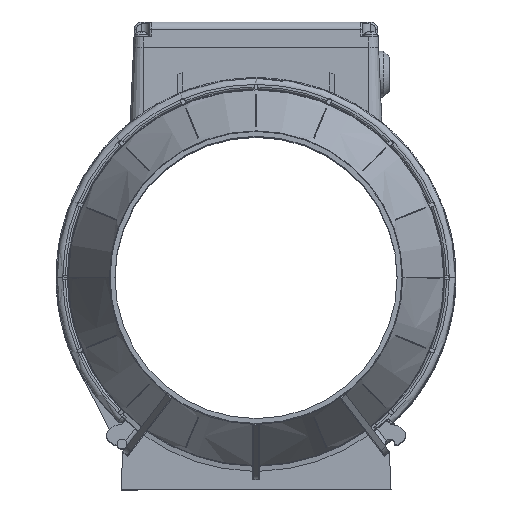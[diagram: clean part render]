
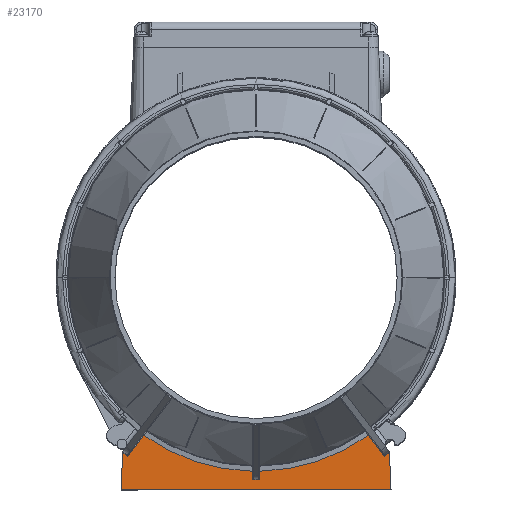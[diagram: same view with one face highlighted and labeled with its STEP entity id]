
A CAD part, top view. The second image highlights one B-rep face of the part: STEP entity #23170.
In plain terms, the highlighted planar face has unit normal (0, 0, 1).
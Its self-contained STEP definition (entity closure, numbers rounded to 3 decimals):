
#3356 = ORIENTED_EDGE ( 'NONE', *, *, #72114, .T. ) ;
#3372 = ORIENTED_EDGE ( 'NONE', *, *, #73235, .T. ) ;
#3393 = ORIENTED_EDGE ( 'NONE', *, *, #73240, .F. ) ;
#3397 = ORIENTED_EDGE ( 'NONE', *, *, #72366, .T. ) ;
#3399 = ORIENTED_EDGE ( 'NONE', *, *, #72574, .F. ) ;
#7604 = ORIENTED_EDGE ( 'NONE', *, *, #72456, .F. ) ;
#7642 = ORIENTED_EDGE ( 'NONE', *, *, #73278, .T. ) ;
#8425 = DIRECTION ( 'NONE',  ( -1., 0., 0. ) ) ;
#8426 = DIRECTION ( 'NONE',  ( 0., 0., -1. ) ) ;
#8427 = CARTESIAN_POINT ( 'NONE',  ( 56.987, -80.016, -44.014 ) ) ;
#8589 = DIRECTION ( 'NONE',  ( -0.793, -0.609, 0. ) ) ;
#8590 = CARTESIAN_POINT ( 'NONE',  ( 65.937, -90.859, -44.014 ) ) ;
#8794 = DIRECTION ( 'NONE',  ( -1., 0., 0. ) ) ;
#8795 = DIRECTION ( 'NONE',  ( 0., 0., 1. ) ) ;
#8796 = CARTESIAN_POINT ( 'NONE',  ( 0., 0., -44.014 ) ) ;
#8801 = DIRECTION ( 'NONE',  ( -1., 0., 0. ) ) ;
#8802 = DIRECTION ( 'NONE',  ( 0., 0., -1. ) ) ;
#8803 = CARTESIAN_POINT ( 'NONE',  ( 1.75, -98.219, -44.014 ) ) ;
#10552 = DIRECTION ( 'NONE',  ( -1., 0., 0. ) ) ;
#10554 = DIRECTION ( 'NONE',  ( 0., 0., 1. ) ) ;
#10556 = CARTESIAN_POINT ( 'NONE',  ( 0., 0., -44.014 ) ) ;
#10582 = DIRECTION ( 'NONE',  ( -1., 0., 0. ) ) ;
#10588 = DIRECTION ( 'NONE',  ( 0., 0., -1. ) ) ;
#10590 = CARTESIAN_POINT ( 'NONE',  ( -1.75, -98.219, -44.014 ) ) ;
#11261 = DIRECTION ( 'NONE',  ( -0.609, -0.793, 0. ) ) ;
#11267 = CARTESIAN_POINT ( 'NONE',  ( -65.243, -90.776, -44.014 ) ) ;
#11787 = DIRECTION ( 'NONE',  ( -1., 0., 0. ) ) ;
#11806 = CARTESIAN_POINT ( 'NONE',  ( -68.865, -108., -44.014 ) ) ;
#12620 = DIRECTION ( 'NONE',  ( 0., 1., 0. ) ) ;
#12625 = CARTESIAN_POINT ( 'NONE',  ( -1.75, -98.727, -44.014 ) ) ;
#12626 = DIRECTION ( 'NONE',  ( 0., -1., 0. ) ) ;
#12631 = CARTESIAN_POINT ( 'NONE',  ( 1.75, -78.332, -44.014 ) ) ;
#13101 = CARTESIAN_POINT ( 'NONE',  ( -60.106, -103.143, -44.014 ) ) ;
#13106 = DIRECTION ( 'NONE',  ( -1., 0., 0. ) ) ;
#13812 = DIRECTION ( 'NONE',  ( 0.044, 0.999, 0. ) ) ;
#13813 = CARTESIAN_POINT ( 'NONE',  ( -68.865, -108., -44.014 ) ) ;
#14429 = DIRECTION ( 'NONE',  ( -0.609, 0.793, 0. ) ) ;
#14434 = CARTESIAN_POINT ( 'NONE',  ( 57.301, -80.426, -44.014 ) ) ;
#14724 = DIRECTION ( 'NONE',  ( -1., 0., 0. ) ) ;
#14725 = DIRECTION ( 'NONE',  ( 0., 0., -1. ) ) ;
#14726 = CARTESIAN_POINT ( 'NONE',  ( -56.987, -80.016, -44.014 ) ) ;
#14860 = VERTEX_POINT ( 'NONE', #58682 ) ;
#15057 = VERTEX_POINT ( 'NONE', #59030 ) ;
#15352 = VERTEX_POINT ( 'NONE', #59372 ) ;
#15941 = DIRECTION ( 'NONE',  ( -0.793, 0.609, 0. ) ) ;
#15983 = CARTESIAN_POINT ( 'NONE',  ( -68.317, -89.032, -44.014 ) ) ;
#23170 = ADVANCED_FACE ( 'NONE', ( #52588 ), #54174, .T. ) ;
#25915 = CARTESIAN_POINT ( 'NONE',  ( 68.865, -108., -44.014 ) ) ;
#25923 = DIRECTION ( 'NONE',  ( 0.044, -0.999, 0. ) ) ;
#30494 = LINE ( 'NONE', #25915, #30502 ) ;
#30502 = VECTOR ( 'NONE', #25923, 1000. ) ;
#31587 = EDGE_LOOP ( 'NONE', ( #42353, #68352, #70243, #7604, #68363, #70202, #3356, #7642, #3393, #3372, #68384, #3397, #38271, #70237, #3399, #38258 ) ) ;
#38258 = ORIENTED_EDGE ( 'NONE', *, *, #72024, .T. ) ;
#38271 = ORIENTED_EDGE ( 'NONE', *, *, #72620, .T. ) ;
#39445 = CARTESIAN_POINT ( 'NONE',  ( 57.277, -80.423, -44.014 ) ) ;
#39585 = CARTESIAN_POINT ( 'NONE',  ( 57.291, -80.413, -44.014 ) ) ;
#39605 = CARTESIAN_POINT ( 'NONE',  ( 68.865, -108., -44.014 ) ) ;
#39608 = CARTESIAN_POINT ( 'NONE',  ( 1.75, -103.143, -44.014 ) ) ;
#39644 = CARTESIAN_POINT ( 'NONE',  ( 65.54, -91.163, -44.014 ) ) ;
#39646 = CARTESIAN_POINT ( 'NONE',  ( 1.759, -98.719, -44.014 ) ) ;
#39682 = CARTESIAN_POINT ( 'NONE',  ( -1.75, -98.719, -44.014 ) ) ;
#39716 = CARTESIAN_POINT ( 'NONE',  ( -68.046, -89.24, -44.014 ) ) ;
#40196 = CARTESIAN_POINT ( 'NONE',  ( -65.54, -91.163, -44.014 ) ) ;
#40224 = CARTESIAN_POINT ( 'NONE',  ( 68.046, -89.24, -44.014 ) ) ;
#40251 = CARTESIAN_POINT ( 'NONE',  ( -68.865, -108., -44.014 ) ) ;
#40711 = CARTESIAN_POINT ( 'NONE',  ( -57.277, -80.423, -44.014 ) ) ;
#40773 = CARTESIAN_POINT ( 'NONE',  ( -57.291, -80.413, -44.014 ) ) ;
#42353 = ORIENTED_EDGE ( 'NONE', *, *, #72472, .T. ) ;
#44100 = VERTEX_POINT ( 'NONE', #40773 ) ;
#44193 = VERTEX_POINT ( 'NONE', #40711 ) ;
#44332 = AXIS2_PLACEMENT_3D ( 'NONE', #54164, #54162, #54160 ) ;
#46053 = LINE ( 'NONE', #15983, #46060 ) ;
#46060 = VECTOR ( 'NONE', #15941, 1000. ) ;
#46081 = CIRCLE ( 'NONE', #62291, 0.5 ) ;
#46155 = LINE ( 'NONE', #14434, #46174 ) ;
#46174 = VECTOR ( 'NONE', #14429, 1000. ) ;
#46252 = LINE ( 'NONE', #13813, #46263 ) ;
#46263 = VECTOR ( 'NONE', #13812, 1000. ) ;
#46409 = LINE ( 'NONE', #13101, #46413 ) ;
#46413 = VECTOR ( 'NONE', #13106, 1000. ) ;
#46492 = LINE ( 'NONE', #11806, #46496 ) ;
#46496 = VECTOR ( 'NONE', #11787, 1000. ) ;
#46513 = LINE ( 'NONE', #11267, #46518 ) ;
#46518 = VECTOR ( 'NONE', #11261, 1000. ) ;
#46579 = CIRCLE ( 'NONE', #62234, 0.5 ) ;
#46596 = CIRCLE ( 'NONE', #62233, 98.735 ) ;
#46613 = LINE ( 'NONE', #12631, #46642 ) ;
#46638 = LINE ( 'NONE', #12625, #46645 ) ;
#46642 = VECTOR ( 'NONE', #12626, 1000. ) ;
#46645 = VECTOR ( 'NONE', #12620, 1000. ) ;
#49206 = CIRCLE ( 'NONE', #62150, 0.5 ) ;
#49211 = CIRCLE ( 'NONE', #62089, 98.735 ) ;
#49214 = LINE ( 'NONE', #8590, #49217 ) ;
#49217 = VECTOR ( 'NONE', #8589, 1000. ) ;
#49226 = CIRCLE ( 'NONE', #62088, 0.5 ) ;
#52588 = FACE_OUTER_BOUND ( 'NONE', #31587, .T. ) ;
#52996 = VERTEX_POINT ( 'NONE', #40251 ) ;
#53009 = VERTEX_POINT ( 'NONE', #40224 ) ;
#53024 = VERTEX_POINT ( 'NONE', #40196 ) ;
#54160 = DIRECTION ( 'NONE',  ( -1., 0., 0. ) ) ;
#54162 = DIRECTION ( 'NONE',  ( 0., 0., 1. ) ) ;
#54164 = CARTESIAN_POINT ( 'NONE',  ( -60.106, -78.332, -44.014 ) ) ;
#54174 = PLANE ( 'NONE',  #44332 ) ;
#55018 = VERTEX_POINT ( 'NONE', #39716 ) ;
#55036 = VERTEX_POINT ( 'NONE', #39682 ) ;
#55068 = VERTEX_POINT ( 'NONE', #39646 ) ;
#55070 = VERTEX_POINT ( 'NONE', #39644 ) ;
#55103 = VERTEX_POINT ( 'NONE', #39608 ) ;
#55106 = VERTEX_POINT ( 'NONE', #39605 ) ;
#55129 = VERTEX_POINT ( 'NONE', #39585 ) ;
#55255 = VERTEX_POINT ( 'NONE', #39445 ) ;
#58682 = CARTESIAN_POINT ( 'NONE',  ( -1.759, -98.719, -44.014 ) ) ;
#59030 = CARTESIAN_POINT ( 'NONE',  ( 1.75, -98.719, -44.014 ) ) ;
#59372 = CARTESIAN_POINT ( 'NONE',  ( -1.75, -103.143, -44.014 ) ) ;
#62088 = AXIS2_PLACEMENT_3D ( 'NONE', #8427, #8426, #8425 ) ;
#62089 = AXIS2_PLACEMENT_3D ( 'NONE', #8796, #8795, #8794 ) ;
#62150 = AXIS2_PLACEMENT_3D ( 'NONE', #8803, #8802, #8801 ) ;
#62233 = AXIS2_PLACEMENT_3D ( 'NONE', #10556, #10554, #10552 ) ;
#62234 = AXIS2_PLACEMENT_3D ( 'NONE', #10590, #10588, #10582 ) ;
#62291 = AXIS2_PLACEMENT_3D ( 'NONE', #14726, #14725, #14724 ) ;
#68352 = ORIENTED_EDGE ( 'NONE', *, *, #71992, .T. ) ;
#68363 = ORIENTED_EDGE ( 'NONE', *, *, #71576, .F. ) ;
#68384 = ORIENTED_EDGE ( 'NONE', *, *, #72619, .T. ) ;
#70202 = ORIENTED_EDGE ( 'NONE', *, *, #73250, .T. ) ;
#70237 = ORIENTED_EDGE ( 'NONE', *, *, #72567, .T. ) ;
#70243 = ORIENTED_EDGE ( 'NONE', *, *, #72224, .F. ) ;
#71576 = EDGE_CURVE ( 'NONE', #53009, #55106, #30494, .T. ) ;
#71992 = EDGE_CURVE ( 'NONE', #53024, #55018, #46053, .T. ) ;
#72024 = EDGE_CURVE ( 'NONE', #44193, #44100, #46081, .T. ) ;
#72114 = EDGE_CURVE ( 'NONE', #55070, #55129, #46155, .T. ) ;
#72224 = EDGE_CURVE ( 'NONE', #52996, #55018, #46252, .T. ) ;
#72366 = EDGE_CURVE ( 'NONE', #55103, #15352, #46409, .T. ) ;
#72456 = EDGE_CURVE ( 'NONE', #55106, #52996, #46492, .T. ) ;
#72472 = EDGE_CURVE ( 'NONE', #44100, #53024, #46513, .T. ) ;
#72567 = EDGE_CURVE ( 'NONE', #55036, #14860, #46579, .T. ) ;
#72574 = EDGE_CURVE ( 'NONE', #44193, #14860, #46596, .T. ) ;
#72619 = EDGE_CURVE ( 'NONE', #15057, #55103, #46613, .T. ) ;
#72620 = EDGE_CURVE ( 'NONE', #15352, #55036, #46638, .T. ) ;
#73235 = EDGE_CURVE ( 'NONE', #55068, #15057, #49206, .T. ) ;
#73240 = EDGE_CURVE ( 'NONE', #55068, #55255, #49211, .T. ) ;
#73250 = EDGE_CURVE ( 'NONE', #53009, #55070, #49214, .T. ) ;
#73278 = EDGE_CURVE ( 'NONE', #55129, #55255, #49226, .T. ) ;
